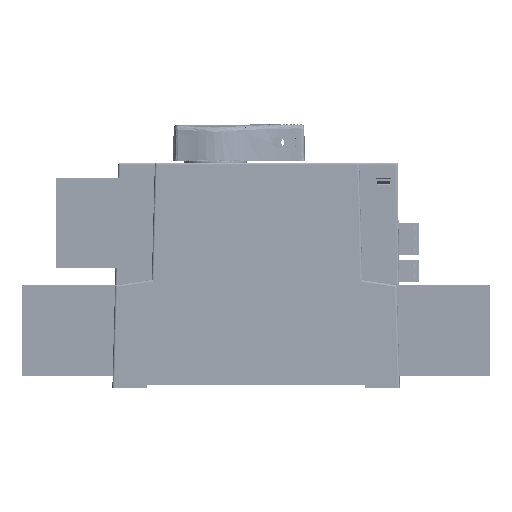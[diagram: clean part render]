
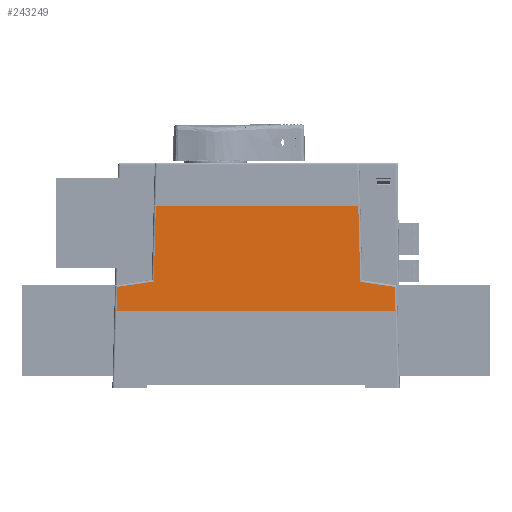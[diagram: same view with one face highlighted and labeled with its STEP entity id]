
A CAD part, left-side view. The second image highlights one B-rep face of the part: STEP entity #243249.
In plain terms, the highlighted planar face has unit normal (-1, 0, 0.018).
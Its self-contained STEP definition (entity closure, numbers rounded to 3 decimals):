
#5404 = DIRECTION ( 'NONE',  ( -0.017, 0., -1. ) ) ;
#23697 = LINE ( 'NONE', #193542, #262172 ) ;
#31538 = VECTOR ( 'NONE', #577057, 1000. ) ;
#36125 = ORIENTED_EDGE ( 'NONE', *, *, #378874, .F. ) ;
#38730 = CARTESIAN_POINT ( 'NONE',  ( -188.525, -48.085, 84.5 ) ) ;
#51267 = CARTESIAN_POINT ( 'NONE',  ( -189.15, -49.022, 48.708 ) ) ;
#52800 = ORIENTED_EDGE ( 'NONE', *, *, #383819, .F. ) ;
#72401 = EDGE_CURVE ( 'NONE', #292282, #380562, #222492, .T. ) ;
#84559 = FACE_OUTER_BOUND ( 'NONE', #351784, .T. ) ;
#97109 = EDGE_CURVE ( 'NONE', #202339, #422617, #438735, .T. ) ;
#126788 = CARTESIAN_POINT ( 'NONE',  ( -189.15, -49.022, 48.708 ) ) ;
#135275 = DIRECTION ( 'NONE',  ( 0., -1., 0. ) ) ;
#149331 = VECTOR ( 'NONE', #377604, 1000. ) ;
#156982 = VECTOR ( 'NONE', #350420, 1000. ) ;
#157015 = CARTESIAN_POINT ( 'NONE',  ( -189.389, -65.584, 35. ) ) ;
#168180 = ORIENTED_EDGE ( 'NONE', *, *, #72401, .F. ) ;
#173635 = VECTOR ( 'NONE', #250339, 1000. ) ;
#181331 = ORIENTED_EDGE ( 'NONE', *, *, #239858, .T. ) ;
#192422 = VECTOR ( 'NONE', #135275, 1000. ) ;
#193542 = CARTESIAN_POINT ( 'NONE',  ( -189.186, 62.778, 46.652 ) ) ;
#202339 = VERTEX_POINT ( 'NONE', #157015 ) ;
#209123 = DIRECTION ( 'NONE',  ( -0.003, -0.989, -0.148 ) ) ;
#215219 = CARTESIAN_POINT ( 'NONE',  ( -188.15, -63.725, 105.97 ) ) ;
#222492 = LINE ( 'NONE', #344491, #173635 ) ;
#227717 = VERTEX_POINT ( 'NONE', #462707 ) ;
#239858 = EDGE_CURVE ( 'NONE', #202339, #454556, #529345, .T. ) ;
#243249 = ADVANCED_FACE ( 'NONE', ( #84559 ), #446531, .F. ) ;
#250339 = DIRECTION ( 'NONE',  ( -0.017, -0.026, -1. ) ) ;
#262172 = VECTOR ( 'NONE', #458177, 1000. ) ;
#292282 = VERTEX_POINT ( 'NONE', #38730 ) ;
#309750 = CARTESIAN_POINT ( 'NONE',  ( -188.525, 89.402, 84.5 ) ) ;
#320148 = VERTEX_POINT ( 'NONE', #439646 ) ;
#326342 = ORIENTED_EDGE ( 'NONE', *, *, #492130, .F. ) ;
#344491 = CARTESIAN_POINT ( 'NONE',  ( -188.525, -48.085, 84.5 ) ) ;
#350420 = DIRECTION ( 'NONE',  ( 0.017, 0.026, 1. ) ) ;
#351784 = EDGE_LOOP ( 'NONE', ( #36125, #373675, #519324, #181331, #326342, #168180, #446076, #52800 ) ) ;
#355307 = EDGE_CURVE ( 'NONE', #227717, #422617, #446099, .T. ) ;
#362128 = DIRECTION ( 'NONE',  ( 1., 0., -0.017 ) ) ;
#363972 = CARTESIAN_POINT ( 'NONE',  ( -189.192, -65.288, 46.277 ) ) ;
#371475 = EDGE_CURVE ( 'NONE', #320148, #292282, #543304, .T. ) ;
#373675 = ORIENTED_EDGE ( 'NONE', *, *, #355307, .T. ) ;
#377604 = DIRECTION ( 'NONE',  ( 0.017, -0.026, 1. ) ) ;
#378874 = EDGE_CURVE ( 'NONE', #227717, #518532, #23697, .T. ) ;
#380562 = VERTEX_POINT ( 'NONE', #51267 ) ;
#383819 = EDGE_CURVE ( 'NONE', #518532, #320148, #486262, .T. ) ;
#396988 = CARTESIAN_POINT ( 'NONE',  ( -189.389, 65.584, 35. ) ) ;
#407187 = LINE ( 'NONE', #126788, #421226 ) ;
#407267 = CARTESIAN_POINT ( 'NONE',  ( -188.15, -65., 106.003 ) ) ;
#421226 = VECTOR ( 'NONE', #209123, 1000. ) ;
#422617 = VERTEX_POINT ( 'NONE', #396988 ) ;
#438735 = LINE ( 'NONE', #485569, #452741 ) ;
#439646 = CARTESIAN_POINT ( 'NONE',  ( -188.525, 47.089, 84.5 ) ) ;
#446076 = ORIENTED_EDGE ( 'NONE', *, *, #371475, .F. ) ;
#446099 = LINE ( 'NONE', #486900, #31538 ) ;
#446531 = PLANE ( 'NONE',  #535861 ) ;
#452741 = VECTOR ( 'NONE', #530564, 1000. ) ;
#454556 = VERTEX_POINT ( 'NONE', #363972 ) ;
#454712 = CARTESIAN_POINT ( 'NONE',  ( -189.147, 48.022, 48.858 ) ) ;
#458177 = DIRECTION ( 'NONE',  ( 0.003, -0.989, 0.148 ) ) ;
#462707 = CARTESIAN_POINT ( 'NONE',  ( -189.192, 65.288, 46.277 ) ) ;
#485569 = CARTESIAN_POINT ( 'NONE',  ( -189.389, -65., 35. ) ) ;
#486262 = LINE ( 'NONE', #510843, #149331 ) ;
#486900 = CARTESIAN_POINT ( 'NONE',  ( -188.091, 63.636, 109.371 ) ) ;
#492130 = EDGE_CURVE ( 'NONE', #380562, #454556, #407187, .T. ) ;
#510843 = CARTESIAN_POINT ( 'NONE',  ( -189.147, 48.022, 48.858 ) ) ;
#518532 = VERTEX_POINT ( 'NONE', #454712 ) ;
#519324 = ORIENTED_EDGE ( 'NONE', *, *, #97109, .F. ) ;
#529345 = LINE ( 'NONE', #215219, #156982 ) ;
#530564 = DIRECTION ( 'NONE',  ( 0., 1., 0. ) ) ;
#535861 = AXIS2_PLACEMENT_3D ( 'NONE', #407267, #362128, #5404 ) ;
#543304 = LINE ( 'NONE', #309750, #192422 ) ;
#577057 = DIRECTION ( 'NONE',  ( -0.017, 0.026, -1. ) ) ;
